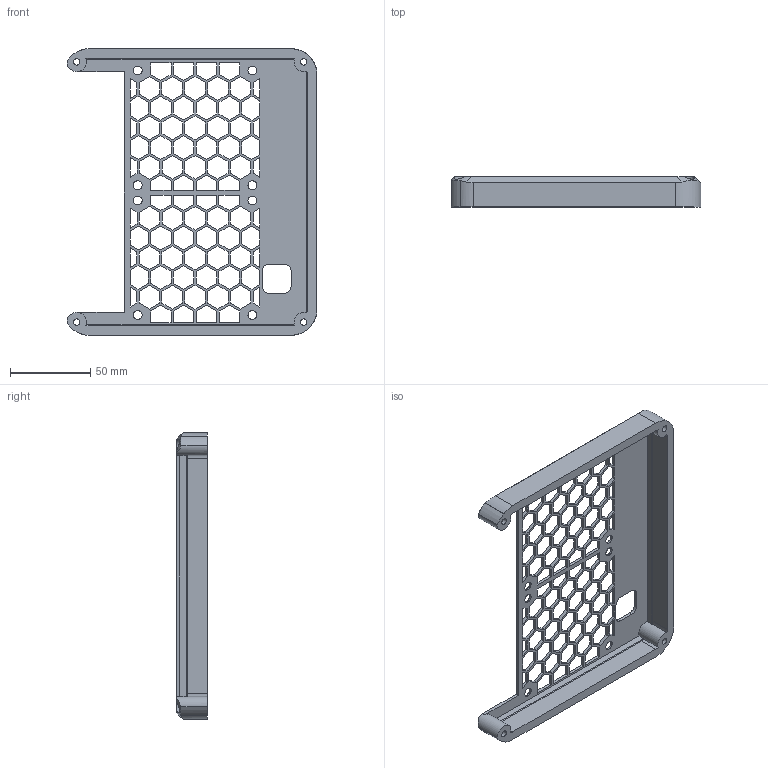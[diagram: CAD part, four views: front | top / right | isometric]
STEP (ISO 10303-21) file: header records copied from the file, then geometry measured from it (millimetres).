
FILE_DESCRIPTION(/* description */ (''),/* implementation_level */ '2;1');
FILE_NAME(/* name */ 'Cluster Back v39.step',/* time_stamp */ '2024-02-11T13:11:02+01:00',/* author */ (''),/* organization */ (''),/* preprocessor_version */ 'ST-DEVELOPER v20',/* originating_system */ 'Autodesk Translation Framework v12.14.0.127',/* authorisation */ '');
FILE_SCHEMA (('AUTOMOTIVE_DESIGN { 1 0 10303 214 3 1 1 }'));
Length unit declared in the file: millimetre
Products named in the file (1): Cluster Back
Bounding box: 155.78 x 19 x 178.6 mm (x, y, z)
Volume: 68561.6 mm3; surface area: 49156.9 mm2
Topology: 1 solids, 1 shells, 533 faces, 1585 edges, 1054 vertices
Faces by surface type: plane 483, cylinder 42, cone 8
Full cylindrical faces by diameter (mm): 4 x4, 5.5 x8, 8 x4
Entity records: 18079 total; most frequent: CARTESIAN_POINT 3276, ORIENTED_EDGE 3170, DIRECTION 2751, EDGE_CURVE 1585, LINE 1467, VECTOR 1467, VERTEX_POINT 1054, EDGE_LOOP 723
